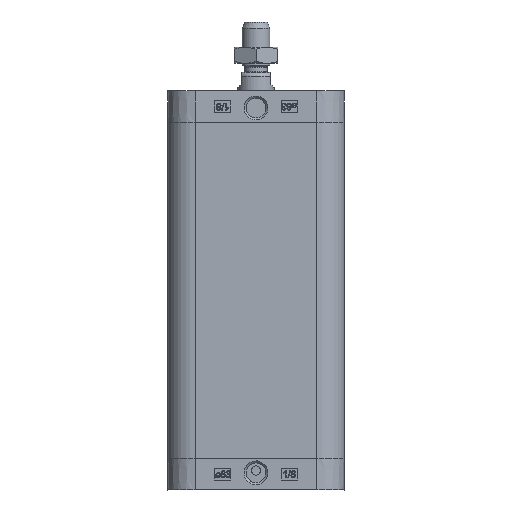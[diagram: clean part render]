
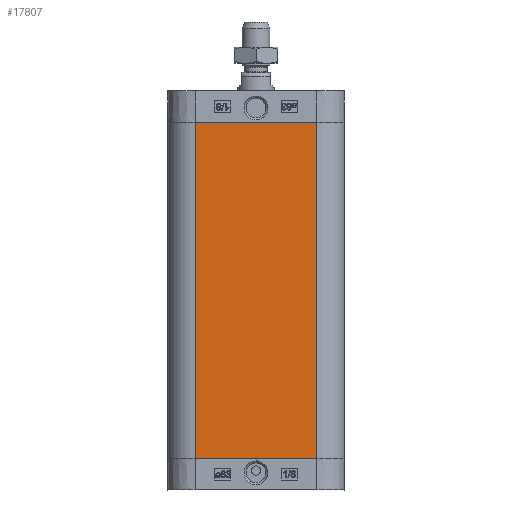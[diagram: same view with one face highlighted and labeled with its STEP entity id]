
A CAD part, left-side view. The second image highlights one B-rep face of the part: STEP entity #17807.
In plain terms, the highlighted planar face has unit normal (-1, 0, 0).
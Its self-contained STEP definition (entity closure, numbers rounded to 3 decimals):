
#1056=PLANE('',#18937);
#1988=LINE('',#27577,#3082);
#2042=LINE('',#27801,#3136);
#2096=LINE('',#28026,#3190);
#2097=LINE('',#28027,#3191);
#3082=VECTOR('',#21662,1000.);
#3136=VECTOR('',#21834,1000.);
#3190=VECTOR('',#22006,1000.);
#3191=VECTOR('',#22007,1000.);
#6528=ORIENTED_EDGE('',*,*,#8612,.T.);
#6529=ORIENTED_EDGE('',*,*,#8836,.F.);
#6530=ORIENTED_EDGE('',*,*,#8724,.T.);
#6531=ORIENTED_EDGE('',*,*,#8837,.T.);
#8612=EDGE_CURVE('',#10058,#10056,#1988,.T.);
#8724=EDGE_CURVE('',#10169,#10170,#2042,.T.);
#8836=EDGE_CURVE('',#10169,#10056,#2096,.T.);
#8837=EDGE_CURVE('',#10170,#10058,#2097,.T.);
#10056=VERTEX_POINT('',#27575);
#10058=VERTEX_POINT('',#27578);
#10169=VERTEX_POINT('',#27802);
#10170=VERTEX_POINT('',#27803);
#11536=EDGE_LOOP('',(#6528,#6529,#6530,#6531));
#12474=FACE_BOUND('',#11536,.T.);
#17807=ADVANCED_FACE('',(#12474),#1056,.T.);
#18937=AXIS2_PLACEMENT_3D('',#28025,#22004,#22005);
#21662=DIRECTION('',(0.,1.,0.));
#21834=DIRECTION('',(0.,-1.,0.));
#22004=DIRECTION('',(-1.,0.,0.));
#22005=DIRECTION('',(0.,0.,1.));
#22006=DIRECTION('',(0.,0.,1.));
#22007=DIRECTION('',(0.,0.,1.));
#27575=CARTESIAN_POINT('',(-38.5,26.5,146.5));
#27577=CARTESIAN_POINT('',(-38.5,-26.5,146.5));
#27578=CARTESIAN_POINT('',(-38.5,-26.5,146.5));
#27801=CARTESIAN_POINT('',(-38.5,26.5,0.));
#27802=CARTESIAN_POINT('',(-38.5,26.5,0.));
#27803=CARTESIAN_POINT('',(-38.5,-26.5,0.));
#28025=CARTESIAN_POINT('',(-38.5,-26.5,0.));
#28026=CARTESIAN_POINT('',(-38.5,26.5,0.));
#28027=CARTESIAN_POINT('',(-38.5,-26.5,0.));
